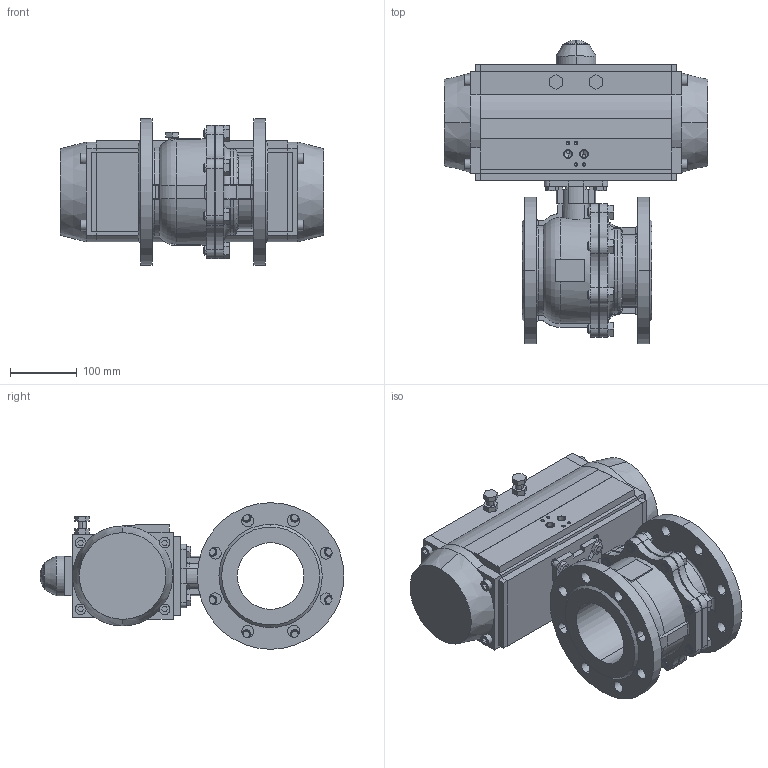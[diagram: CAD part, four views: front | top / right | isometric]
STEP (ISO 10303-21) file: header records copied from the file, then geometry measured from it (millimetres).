
FILE_DESCRIPTION((''),'2;1');
FILE_NAME('BV-22F_RPA_ASM','2024-09-11T',('USER'),(''),'PRO/ENGINEER BY PARAMETRIC TECHNOLOGY CORPORATION, 2011220','PRO/ENGINEER BY PARAMETRIC TECHNOLOGY CORPORATION, 2011220','');
FILE_SCHEMA(('CONFIG_CONTROL_DESIGN'));
Length unit declared in the file: millimetre
Products named in the file (12): KORPUS_KRAN_FL; BOLT_M14X30; SB_KRAN_FL_ASM; KORPUS_PNEVMOPRIVOD; KOLCO_40_GOST13942; KRISKA_VERX; VINT; KRISKA_LEFT; KRISKA_RIGHT; SB_PNEVMOPRIVOD_ASM; B-7798-M10-20; BV-22F_RPA_ASM
Assembly tree (21 placements, depth 3):
  BV-22F_RPA_ASM
    SB_KRAN_FL_ASM
      KORPUS_KRAN_FL
      BOLT_M14X30  x8
    SB_PNEVMOPRIVOD_ASM
      KORPUS_PNEVMOPRIVOD
      KOLCO_40_GOST13942
      KRISKA_VERX
      VINT
      KRISKA_LEFT
      KRISKA_RIGHT
    B-7798-M10-20  x4
Bounding box: 395 x 455.96 x 220 mm (x, y, z)
Volume: 11394354.6 mm3; surface area: 811959.4 mm2
Topology: 19 solids, 65 shells, 960 faces, 2485 edges, 1601 vertices
Faces by surface type: plane 445, cylinder 383, cone 90, bspline 20, torus 20, sphere 2
Entity records: 26524 total; most frequent: CARTESIAN_POINT 5958, DIRECTION 4425, ORIENTED_EDGE 4002, EDGE_CURVE 2075, AXIS2_PLACEMENT_3D 1626, VERTEX_POINT 1369, VECTOR 1173, LINE 1173
